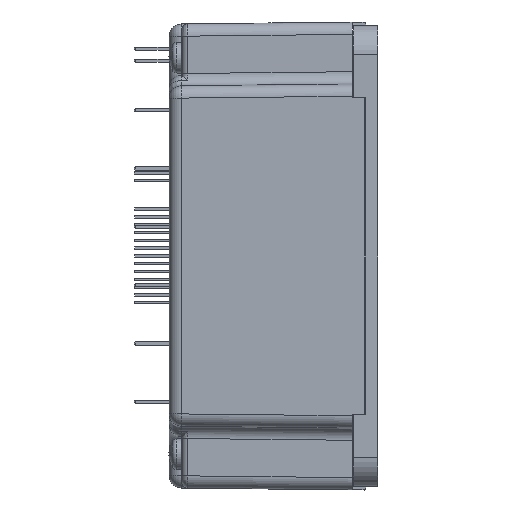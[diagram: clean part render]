
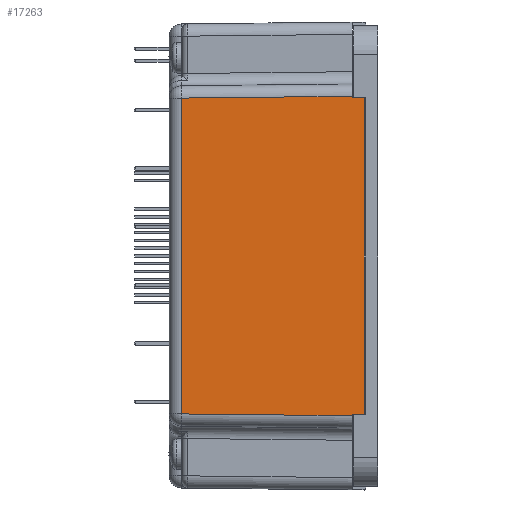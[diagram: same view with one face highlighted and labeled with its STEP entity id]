
A CAD part, left-side view. The second image highlights one B-rep face of the part: STEP entity #17263.
In plain terms, the highlighted planar face has unit normal (-1, 0.011, 0).
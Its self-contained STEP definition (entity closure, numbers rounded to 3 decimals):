
#769 = LINE ( 'NONE', #70637, #31941 ) ;
#859 = CARTESIAN_POINT ( 'NONE',  ( -55.577, 2.2, 25.752 ) ) ;
#1537 = LINE ( 'NONE', #8144, #19554 ) ;
#3246 = EDGE_CURVE ( 'NONE', #20828, #26859, #97279, .T. ) ;
#3444 = LINE ( 'NONE', #75452, #44204 ) ;
#4480 = VECTOR ( 'NONE', #7968, 1000. ) ;
#6649 = DIRECTION ( 'NONE',  ( 0., 0., -1. ) ) ;
#6882 = VERTEX_POINT ( 'NONE', #49590 ) ;
#7870 = ORIENTED_EDGE ( 'NONE', *, *, #21172, .T. ) ;
#7968 = DIRECTION ( 'NONE',  ( -0.01, -1., 0. ) ) ;
#8144 = CARTESIAN_POINT ( 'NONE',  ( -55.577, 2.2, -28.025 ) ) ;
#12058 = EDGE_CURVE ( 'NONE', #6882, #72240, #96825, .T. ) ;
#15696 = CARTESIAN_POINT ( 'NONE',  ( -55.6, 0., -25.752 ) ) ;
#17263 = ADVANCED_FACE ( 'NONE', ( #27003 ), #94158, .T. ) ;
#18001 = ORIENTED_EDGE ( 'NONE', *, *, #73191, .T. ) ;
#18189 = CARTESIAN_POINT ( 'NONE',  ( -55.577, 2.2, -26.002 ) ) ;
#18489 = VECTOR ( 'NONE', #76906, 1000. ) ;
#19079 = LINE ( 'NONE', #63999, #36981 ) ;
#19554 = VECTOR ( 'NONE', #46616, 1000. ) ;
#20828 = VERTEX_POINT ( 'NONE', #25664 ) ;
#20904 = VERTEX_POINT ( 'NONE', #34878 ) ;
#21172 = EDGE_CURVE ( 'NONE', #32838, #28911, #769, .T. ) ;
#25664 = CARTESIAN_POINT ( 'NONE',  ( -55.577, 2.2, 26.002 ) ) ;
#26859 = VERTEX_POINT ( 'NONE', #28611 ) ;
#27003 = FACE_OUTER_BOUND ( 'NONE', #51090, .T. ) ;
#28611 = CARTESIAN_POINT ( 'NONE',  ( -55.286, 30.021, 25.711 ) ) ;
#28911 = VERTEX_POINT ( 'NONE', #859 ) ;
#29287 = DIRECTION ( 'NONE',  ( -1., 0.01, 0. ) ) ;
#29556 = CARTESIAN_POINT ( 'NONE',  ( -55.594, 0.566, 26.019 ) ) ;
#31941 = VECTOR ( 'NONE', #90034, 1000. ) ;
#32394 = CARTESIAN_POINT ( 'NONE',  ( -55.286, 30.021, -25.711 ) ) ;
#32838 = VERTEX_POINT ( 'NONE', #90933 ) ;
#34878 = CARTESIAN_POINT ( 'NONE',  ( -55.597, 0.253, -25.752 ) ) ;
#36981 = VECTOR ( 'NONE', #94617, 1000. ) ;
#41399 = ORIENTED_EDGE ( 'NONE', *, *, #51352, .T. ) ;
#41547 = DIRECTION ( 'NONE',  ( -0.01, -1., 0. ) ) ;
#44204 = VECTOR ( 'NONE', #6649, 1000. ) ;
#46047 = DIRECTION ( 'NONE',  ( 0., 0., 1. ) ) ;
#46616 = DIRECTION ( 'NONE',  ( 0., 0., -1. ) ) ;
#49590 = CARTESIAN_POINT ( 'NONE',  ( -55.577, 2.2, -25.752 ) ) ;
#51090 = EDGE_LOOP ( 'NONE', ( #18001, #41399, #7870, #60884, #56145, #97289, #83708, #94166 ) ) ;
#51352 = EDGE_CURVE ( 'NONE', #20904, #32838, #63219, .T. ) ;
#56145 = ORIENTED_EDGE ( 'NONE', *, *, #3246, .T. ) ;
#56266 = VECTOR ( 'NONE', #85802, 1000. ) ;
#60626 = EDGE_CURVE ( 'NONE', #26859, #96132, #3444, .T. ) ;
#60884 = ORIENTED_EDGE ( 'NONE', *, *, #93203, .F. ) ;
#63219 = LINE ( 'NONE', #91715, #85890 ) ;
#63999 = CARTESIAN_POINT ( 'NONE',  ( -55.6, -0.021, -26.025 ) ) ;
#65491 = LINE ( 'NONE', #15696, #4480 ) ;
#70637 = CARTESIAN_POINT ( 'NONE',  ( -55.6, 0., 25.752 ) ) ;
#72240 = VERTEX_POINT ( 'NONE', #18189 ) ;
#73191 = EDGE_CURVE ( 'NONE', #6882, #20904, #65491, .T. ) ;
#75452 = CARTESIAN_POINT ( 'NONE',  ( -55.286, 30.021, -28.025 ) ) ;
#76906 = DIRECTION ( 'NONE',  ( 0.01, 1., -0.01 ) ) ;
#77735 = EDGE_CURVE ( 'NONE', #96132, #72240, #19079, .T. ) ;
#77843 = CARTESIAN_POINT ( 'NONE',  ( -55.6, 0., -28.025 ) ) ;
#80622 = CARTESIAN_POINT ( 'NONE',  ( -55.577, 2.2, -28.025 ) ) ;
#83708 = ORIENTED_EDGE ( 'NONE', *, *, #77735, .T. ) ;
#85802 = DIRECTION ( 'NONE',  ( 0., 0., -1. ) ) ;
#85890 = VECTOR ( 'NONE', #46047, 1000. ) ;
#90034 = DIRECTION ( 'NONE',  ( 0.01, 1., 0. ) ) ;
#90933 = CARTESIAN_POINT ( 'NONE',  ( -55.597, 0.253, 25.752 ) ) ;
#91715 = CARTESIAN_POINT ( 'NONE',  ( -55.597, 0.253, 25.752 ) ) ;
#92029 = AXIS2_PLACEMENT_3D ( 'NONE', #77843, #29287, #41547 ) ;
#93203 = EDGE_CURVE ( 'NONE', #20828, #28911, #1537, .T. ) ;
#94158 = PLANE ( 'NONE',  #92029 ) ;
#94166 = ORIENTED_EDGE ( 'NONE', *, *, #12058, .F. ) ;
#94617 = DIRECTION ( 'NONE',  ( -0.01, -1., -0.01 ) ) ;
#96132 = VERTEX_POINT ( 'NONE', #32394 ) ;
#96825 = LINE ( 'NONE', #80622, #56266 ) ;
#97279 = LINE ( 'NONE', #29556, #18489 ) ;
#97289 = ORIENTED_EDGE ( 'NONE', *, *, #60626, .T. ) ;
